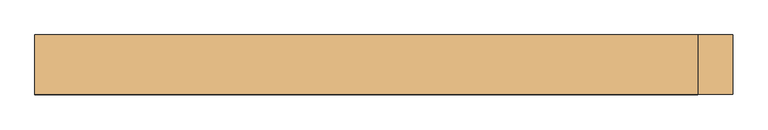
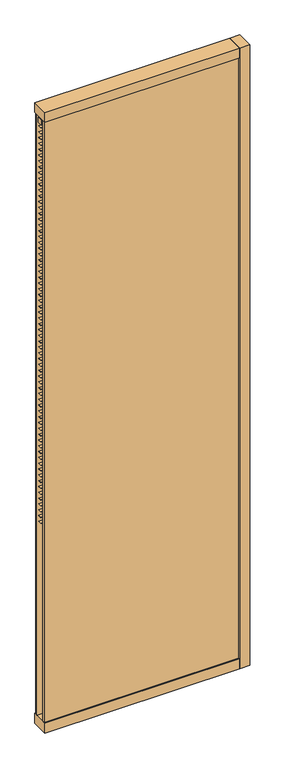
"""IFC4 building model written with IfcOpenShell, lengths in millimetres: door geometry, Mobiliário_Mobiliário de Escritório_Painel Persiana Junta Seca - DWVS e DWVD (Inicial e Final)_Marelli : DWVD."""

from ifc_helpers import new_model, si_unit, frame, origin, origin_with_axes, place, context, project, spatial, polyline, outline, extrude, source, transform, mapped, element, save


def door_7680dacf(model_context):
    return source(origin(), model_context, "Body", "SweptSolid", [
        extrude(outline(polyline([(450.0, 42.5), (450.0, -42.5), (-500.0, -42.5), (-500.0, 42.5), (450.0, 42.5)])), origin_with_axes(), (0.0, 0.0, 1.0), 50.0),
        extrude(outline(polyline([(450.0, 13.6216022), (450.0, -11.3783978), (-500.0, -11.3783978), (-500.0, 13.6216022), (450.0, 13.6216022)])), frame((0.0, 0.0, 3117.0), z_axis=(0.0, 0.0, 1.0), x_axis=(1.0, 0.0, 0.0)), (0.0, 0.0, 1.0), 25.0),
        extrude(outline(polyline([(450.0, 42.5), (450.0, -42.5), (-500.0, -42.5), (-500.0, 42.5), (450.0, 42.5)])), frame((0.0, 0.0, 3150.0), z_axis=(0.0, 0.0, 1.0), x_axis=(1.0, 0.0, 0.0)), (0.0, 0.0, 1.0), 50.0),
        extrude(outline(polyline([(500.0, -42.5), (450.0, -42.5), (450.0, 42.5), (500.0, 42.5), (500.0, -42.5)])), origin_with_axes(), (0.0, 0.0, 1.0), 3200.0),
        extrude(outline(polyline([(450.0, 35.1), (450.0, 25.1), (-500.0, 25.1), (-500.0, 35.1), (450.0, 35.1)])), frame((0.0, 0.0, 50.0), z_axis=(0.0, 0.0, 1.0), x_axis=(1.0, 0.0, 0.0)), (0.0, 0.0, 1.0), 3100.0),
        extrude(outline(polyline([(450.0, -35.1), (-500.0, -35.1), (-500.0, -25.1), (450.0, -25.1), (450.0, -35.1)])), frame((0.0, 0.0, 50.0), z_axis=(0.0, 0.0, 1.0), x_axis=(1.0, 0.0, 0.0)), (0.0, 0.0, 1.0), 3100.0),
        extrude(outline(polyline([(450.0, 8.0), (450.0, -8.0), (-500.0, -8.0), (-500.0, 8.0), (450.0, 8.0)])), frame((0.0, 0.0, 1061.2), z_axis=(0.0, 0.0, 1.0), x_axis=(1.0, 0.0, 0.0)), (0.0, 0.0, 1.0), 0.8),
        extrude(outline(polyline([(450.0, 8.0), (450.0, -8.0), (-500.0, -8.0), (-500.0, 8.0), (450.0, 8.0)])), frame((0.0, 0.0, 1091.2), z_axis=(0.0, 0.0, 1.0), x_axis=(1.0, 0.0, 0.0)), (0.0, 0.0, 1.0), 0.8),
        extrude(outline(polyline([(450.0, 8.0), (450.0, -8.0), (-500.0, -8.0), (-500.0, 8.0), (450.0, 8.0)])), frame((0.0, 0.0, 1121.2), z_axis=(0.0, 0.0, 1.0), x_axis=(1.0, 0.0, 0.0)), (0.0, 0.0, 1.0), 0.8),
        extrude(outline(polyline([(450.0, 8.0), (450.0, -8.0), (-500.0, -8.0), (-500.0, 8.0), (450.0, 8.0)])), frame((0.0, 0.0, 1151.2), z_axis=(0.0, 0.0, 1.0), x_axis=(1.0, 0.0, 0.0)), (0.0, 0.0, 1.0), 0.8),
        extrude(outline(polyline([(450.0, 8.0), (450.0, -8.0), (-500.0, -8.0), (-500.0, 8.0), (450.0, 8.0)])), frame((0.0, 0.0, 1181.2), z_axis=(0.0, 0.0, 1.0), x_axis=(1.0, 0.0, 0.0)), (0.0, 0.0, 1.0), 0.8),
        extrude(outline(polyline([(450.0, 8.0), (450.0, -8.0), (-500.0, -8.0), (-500.0, 8.0), (450.0, 8.0)])), frame((0.0, 0.0, 3101.2), z_axis=(0.0, 0.0, 1.0), x_axis=(1.0, 0.0, 0.0)), (0.0, 0.0, 1.0), 0.8),
        extrude(outline(polyline([(450.0, 8.0), (450.0, -8.0), (-500.0, -8.0), (-500.0, 8.0), (450.0, 8.0)])), frame((0.0, 0.0, 3071.2), z_axis=(0.0, 0.0, 1.0), x_axis=(1.0, 0.0, 0.0)), (0.0, 0.0, 1.0), 0.8),
        extrude(outline(polyline([(450.0, 8.0), (450.0, -8.0), (-500.0, -8.0), (-500.0, 8.0), (450.0, 8.0)])), frame((0.0, 0.0, 3041.2), z_axis=(0.0, 0.0, 1.0), x_axis=(1.0, 0.0, 0.0)), (0.0, 0.0, 1.0), 0.8),
        extrude(outline(polyline([(450.0, 8.0), (450.0, -8.0), (-500.0, -8.0), (-500.0, 8.0), (450.0, 8.0)])), frame((0.0, 0.0, 3011.2), z_axis=(0.0, 0.0, 1.0), x_axis=(1.0, 0.0, 0.0)), (0.0, 0.0, 1.0), 0.8),
        extrude(outline(polyline([(450.0, 8.0), (450.0, -8.0), (-500.0, -8.0), (-500.0, 8.0), (450.0, 8.0)])), frame((0.0, 0.0, 2981.2), z_axis=(0.0, 0.0, 1.0), x_axis=(1.0, 0.0, 0.0)), (0.0, 0.0, 1.0), 0.8),
        extrude(outline(polyline([(450.0, 8.0), (450.0, -8.0), (-500.0, -8.0), (-500.0, 8.0), (450.0, 8.0)])), frame((0.0, 0.0, 2951.2), z_axis=(0.0, 0.0, 1.0), x_axis=(1.0, 0.0, 0.0)), (0.0, 0.0, 1.0), 0.8),
        extrude(outline(polyline([(450.0, 8.0), (450.0, -8.0), (-500.0, -8.0), (-500.0, 8.0), (450.0, 8.0)])), frame((0.0, 0.0, 2921.2), z_axis=(0.0, 0.0, 1.0), x_axis=(1.0, 0.0, 0.0)), (0.0, 0.0, 1.0), 0.8),
        extrude(outline(polyline([(450.0, 8.0), (450.0, -8.0), (-500.0, -8.0), (-500.0, 8.0), (450.0, 8.0)])), frame((0.0, 0.0, 2891.2), z_axis=(0.0, 0.0, 1.0), x_axis=(1.0, 0.0, 0.0)), (0.0, 0.0, 1.0), 0.8),
        extrude(outline(polyline([(450.0, 8.0), (450.0, -8.0), (-500.0, -8.0), (-500.0, 8.0), (450.0, 8.0)])), frame((0.0, 0.0, 2861.2), z_axis=(0.0, 0.0, 1.0), x_axis=(1.0, 0.0, 0.0)), (0.0, 0.0, 1.0), 0.8),
        extrude(outline(polyline([(450.0, 8.0), (450.0, -8.0), (-500.0, -8.0), (-500.0, 8.0), (450.0, 8.0)])), frame((0.0, 0.0, 2831.2), z_axis=(0.0, 0.0, 1.0), x_axis=(1.0, 0.0, 0.0)), (0.0, 0.0, 1.0), 0.8),
        extrude(outline(polyline([(450.0, 8.0), (450.0, -8.0), (-500.0, -8.0), (-500.0, 8.0), (450.0, 8.0)])), frame((0.0, 0.0, 2801.2), z_axis=(0.0, 0.0, 1.0), x_axis=(1.0, 0.0, 0.0)), (0.0, 0.0, 1.0), 0.8),
        extrude(outline(polyline([(450.0, 8.0), (450.0, -8.0), (-500.0, -8.0), (-500.0, 8.0), (450.0, 8.0)])), frame((0.0, 0.0, 2771.2), z_axis=(0.0, 0.0, 1.0), x_axis=(1.0, 0.0, 0.0)), (0.0, 0.0, 1.0), 0.8),
        extrude(outline(polyline([(450.0, 8.0), (450.0, -8.0), (-500.0, -8.0), (-500.0, 8.0), (450.0, 8.0)])), frame((0.0, 0.0, 2741.2), z_axis=(0.0, 0.0, 1.0), x_axis=(1.0, 0.0, 0.0)), (0.0, 0.0, 1.0), 0.8),
        extrude(outline(polyline([(450.0, 8.0), (450.0, -8.0), (-500.0, -8.0), (-500.0, 8.0), (450.0, 8.0)])), frame((0.0, 0.0, 2711.2), z_axis=(0.0, 0.0, 1.0), x_axis=(1.0, 0.0, 0.0)), (0.0, 0.0, 1.0), 0.8),
        extrude(outline(polyline([(450.0, 8.0), (450.0, -8.0), (-500.0, -8.0), (-500.0, 8.0), (450.0, 8.0)])), frame((0.0, 0.0, 2681.2), z_axis=(0.0, 0.0, 1.0), x_axis=(1.0, 0.0, 0.0)), (0.0, 0.0, 1.0), 0.8),
        extrude(outline(polyline([(450.0, 8.0), (450.0, -8.0), (-500.0, -8.0), (-500.0, 8.0), (450.0, 8.0)])), frame((0.0, 0.0, 2651.2), z_axis=(0.0, 0.0, 1.0), x_axis=(1.0, 0.0, 0.0)), (0.0, 0.0, 1.0), 0.8),
        extrude(outline(polyline([(450.0, 8.0), (450.0, -8.0), (-500.0, -8.0), (-500.0, 8.0), (450.0, 8.0)])), frame((0.0, 0.0, 2621.2), z_axis=(0.0, 0.0, 1.0), x_axis=(1.0, 0.0, 0.0)), (0.0, 0.0, 1.0), 0.8),
        extrude(outline(polyline([(450.0, 8.0), (450.0, -8.0), (-500.0, -8.0), (-500.0, 8.0), (450.0, 8.0)])), frame((0.0, 0.0, 2591.2), z_axis=(0.0, 0.0, 1.0), x_axis=(1.0, 0.0, 0.0)), (0.0, 0.0, 1.0), 0.8),
        extrude(outline(polyline([(450.0, 8.0), (450.0, -8.0), (-500.0, -8.0), (-500.0, 8.0), (450.0, 8.0)])), frame((0.0, 0.0, 2561.2), z_axis=(0.0, 0.0, 1.0), x_axis=(1.0, 0.0, 0.0)), (0.0, 0.0, 1.0), 0.8),
        extrude(outline(polyline([(450.0, 8.0), (450.0, -8.0), (-500.0, -8.0), (-500.0, 8.0), (450.0, 8.0)])), frame((0.0, 0.0, 2531.2), z_axis=(0.0, 0.0, 1.0), x_axis=(1.0, 0.0, 0.0)), (0.0, 0.0, 1.0), 0.8),
        extrude(outline(polyline([(450.0, 8.0), (450.0, -8.0), (-500.0, -8.0), (-500.0, 8.0), (450.0, 8.0)])), frame((0.0, 0.0, 2501.2), z_axis=(0.0, 0.0, 1.0), x_axis=(1.0, 0.0, 0.0)), (0.0, 0.0, 1.0), 0.8),
        extrude(outline(polyline([(450.0, 8.0), (450.0, -8.0), (-500.0, -8.0), (-500.0, 8.0), (450.0, 8.0)])), frame((0.0, 0.0, 2471.2), z_axis=(0.0, 0.0, 1.0), x_axis=(1.0, 0.0, 0.0)), (0.0, 0.0, 1.0), 0.8),
        extrude(outline(polyline([(450.0, 8.0), (450.0, -8.0), (-500.0, -8.0), (-500.0, 8.0), (450.0, 8.0)])), frame((0.0, 0.0, 2441.2), z_axis=(0.0, 0.0, 1.0), x_axis=(1.0, 0.0, 0.0)), (0.0, 0.0, 1.0), 0.8),
        extrude(outline(polyline([(450.0, 8.0), (450.0, -8.0), (-500.0, -8.0), (-500.0, 8.0), (450.0, 8.0)])), frame((0.0, 0.0, 2411.2), z_axis=(0.0, 0.0, 1.0), x_axis=(1.0, 0.0, 0.0)), (0.0, 0.0, 1.0), 0.8),
        extrude(outline(polyline([(450.0, 8.0), (450.0, -8.0), (-500.0, -8.0), (-500.0, 8.0), (450.0, 8.0)])), frame((0.0, 0.0, 2381.2), z_axis=(0.0, 0.0, 1.0), x_axis=(1.0, 0.0, 0.0)), (0.0, 0.0, 1.0), 0.8),
        extrude(outline(polyline([(450.0, 8.0), (450.0, -8.0), (-500.0, -8.0), (-500.0, 8.0), (450.0, 8.0)])), frame((0.0, 0.0, 2351.2), z_axis=(0.0, 0.0, 1.0), x_axis=(1.0, 0.0, 0.0)), (0.0, 0.0, 1.0), 0.8),
        extrude(outline(polyline([(450.0, 8.0), (450.0, -8.0), (-500.0, -8.0), (-500.0, 8.0), (450.0, 8.0)])), frame((0.0, 0.0, 2321.2), z_axis=(0.0, 0.0, 1.0), x_axis=(1.0, 0.0, 0.0)), (0.0, 0.0, 1.0), 0.8),
        extrude(outline(polyline([(450.0, 8.0), (450.0, -8.0), (-500.0, -8.0), (-500.0, 8.0), (450.0, 8.0)])), frame((0.0, 0.0, 2291.2), z_axis=(0.0, 0.0, 1.0), x_axis=(1.0, 0.0, 0.0)), (0.0, 0.0, 1.0), 0.8),
        extrude(outline(polyline([(450.0, 8.0), (450.0, -8.0), (-500.0, -8.0), (-500.0, 8.0), (450.0, 8.0)])), frame((0.0, 0.0, 2261.2), z_axis=(0.0, 0.0, 1.0), x_axis=(1.0, 0.0, 0.0)), (0.0, 0.0, 1.0), 0.8),
        extrude(outline(polyline([(450.0, 8.0), (450.0, -8.0), (-500.0, -8.0), (-500.0, 8.0), (450.0, 8.0)])), frame((0.0, 0.0, 2231.2), z_axis=(0.0, 0.0, 1.0), x_axis=(1.0, 0.0, 0.0)), (0.0, 0.0, 1.0), 0.8),
        extrude(outline(polyline([(450.0, 8.0), (450.0, -8.0), (-500.0, -8.0), (-500.0, 8.0), (450.0, 8.0)])), frame((0.0, 0.0, 2201.2), z_axis=(0.0, 0.0, 1.0), x_axis=(1.0, 0.0, 0.0)), (0.0, 0.0, 1.0), 0.8),
        extrude(outline(polyline([(450.0, 8.0), (450.0, -8.0), (-500.0, -8.0), (-500.0, 8.0), (450.0, 8.0)])), frame((0.0, 0.0, 2171.2), z_axis=(0.0, 0.0, 1.0), x_axis=(1.0, 0.0, 0.0)), (0.0, 0.0, 1.0), 0.8),
        extrude(outline(polyline([(450.0, 8.0), (450.0, -8.0), (-500.0, -8.0), (-500.0, 8.0), (450.0, 8.0)])), frame((0.0, 0.0, 2141.2), z_axis=(0.0, 0.0, 1.0), x_axis=(1.0, 0.0, 0.0)), (0.0, 0.0, 1.0), 0.8),
        extrude(outline(polyline([(450.0, 8.0), (450.0, -8.0), (-500.0, -8.0), (-500.0, 8.0), (450.0, 8.0)])), frame((0.0, 0.0, 2111.2), z_axis=(0.0, 0.0, 1.0), x_axis=(1.0, 0.0, 0.0)), (0.0, 0.0, 1.0), 0.8),
        extrude(outline(polyline([(450.0, 8.0), (450.0, -8.0), (-500.0, -8.0), (-500.0, 8.0), (450.0, 8.0)])), frame((0.0, 0.0, 2081.2), z_axis=(0.0, 0.0, 1.0), x_axis=(1.0, 0.0, 0.0)), (0.0, 0.0, 1.0), 0.8),
        extrude(outline(polyline([(450.0, 8.0), (450.0, -8.0), (-500.0, -8.0), (-500.0, 8.0), (450.0, 8.0)])), frame((0.0, 0.0, 2051.2), z_axis=(0.0, 0.0, 1.0), x_axis=(1.0, 0.0, 0.0)), (0.0, 0.0, 1.0), 0.8),
        extrude(outline(polyline([(450.0, 8.0), (450.0, -8.0), (-500.0, -8.0), (-500.0, 8.0), (450.0, 8.0)])), frame((0.0, 0.0, 2021.2), z_axis=(0.0, 0.0, 1.0), x_axis=(1.0, 0.0, 0.0)), (0.0, 0.0, 1.0), 0.8),
        extrude(outline(polyline([(450.0, 8.0), (450.0, -8.0), (-500.0, -8.0), (-500.0, 8.0), (450.0, 8.0)])), frame((0.0, 0.0, 1991.2), z_axis=(0.0, 0.0, 1.0), x_axis=(1.0, 0.0, 0.0)), (0.0, 0.0, 1.0), 0.8),
        extrude(outline(polyline([(450.0, 8.0), (450.0, -8.0), (-500.0, -8.0), (-500.0, 8.0), (450.0, 8.0)])), frame((0.0, 0.0, 1961.2), z_axis=(0.0, 0.0, 1.0), x_axis=(1.0, 0.0, 0.0)), (0.0, 0.0, 1.0), 0.8),
        extrude(outline(polyline([(450.0, 8.0), (450.0, -8.0), (-500.0, -8.0), (-500.0, 8.0), (450.0, 8.0)])), frame((0.0, 0.0, 1931.2), z_axis=(0.0, 0.0, 1.0), x_axis=(1.0, 0.0, 0.0)), (0.0, 0.0, 1.0), 0.8),
        extrude(outline(polyline([(450.0, 8.0), (450.0, -8.0), (-500.0, -8.0), (-500.0, 8.0), (450.0, 8.0)])), frame((0.0, 0.0, 1901.2), z_axis=(0.0, 0.0, 1.0), x_axis=(1.0, 0.0, 0.0)), (0.0, 0.0, 1.0), 0.8),
        extrude(outline(polyline([(450.0, 8.0), (450.0, -8.0), (-500.0, -8.0), (-500.0, 8.0), (450.0, 8.0)])), frame((0.0, 0.0, 1871.2), z_axis=(0.0, 0.0, 1.0), x_axis=(1.0, 0.0, 0.0)), (0.0, 0.0, 1.0), 0.8),
        extrude(outline(polyline([(450.0, 8.0), (450.0, -8.0), (-500.0, -8.0), (-500.0, 8.0), (450.0, 8.0)])), frame((0.0, 0.0, 1841.2), z_axis=(0.0, 0.0, 1.0), x_axis=(1.0, 0.0, 0.0)), (0.0, 0.0, 1.0), 0.8),
        extrude(outline(polyline([(450.0, 8.0), (450.0, -8.0), (-500.0, -8.0), (-500.0, 8.0), (450.0, 8.0)])), frame((0.0, 0.0, 1811.2), z_axis=(0.0, 0.0, 1.0), x_axis=(1.0, 0.0, 0.0)), (0.0, 0.0, 1.0), 0.8),
        extrude(outline(polyline([(450.0, 8.0), (450.0, -8.0), (-500.0, -8.0), (-500.0, 8.0), (450.0, 8.0)])), frame((0.0, 0.0, 1511.2), z_axis=(0.0, 0.0, 1.0), x_axis=(1.0, 0.0, 0.0)), (0.0, 0.0, 1.0), 0.8),
        extrude(outline(polyline([(450.0, 8.0), (450.0, -8.0), (-500.0, -8.0), (-500.0, 8.0), (450.0, 8.0)])), frame((0.0, 0.0, 1541.2), z_axis=(0.0, 0.0, 1.0), x_axis=(1.0, 0.0, 0.0)), (0.0, 0.0, 1.0), 0.8),
        extrude(outline(polyline([(450.0, 8.0), (450.0, -8.0), (-500.0, -8.0), (-500.0, 8.0), (450.0, 8.0)])), frame((0.0, 0.0, 1571.2), z_axis=(0.0, 0.0, 1.0), x_axis=(1.0, 0.0, 0.0)), (0.0, 0.0, 1.0), 0.8),
        extrude(outline(polyline([(450.0, 8.0), (450.0, -8.0), (-500.0, -8.0), (-500.0, 8.0), (450.0, 8.0)])), frame((0.0, 0.0, 1601.2), z_axis=(0.0, 0.0, 1.0), x_axis=(1.0, 0.0, 0.0)), (0.0, 0.0, 1.0), 0.8),
        extrude(outline(polyline([(450.0, 8.0), (450.0, -8.0), (-500.0, -8.0), (-500.0, 8.0), (450.0, 8.0)])), frame((0.0, 0.0, 1631.2), z_axis=(0.0, 0.0, 1.0), x_axis=(1.0, 0.0, 0.0)), (0.0, 0.0, 1.0), 0.8),
        extrude(outline(polyline([(450.0, 8.0), (450.0, -8.0), (-500.0, -8.0), (-500.0, 8.0), (450.0, 8.0)])), frame((0.0, 0.0, 1661.2), z_axis=(0.0, 0.0, 1.0), x_axis=(1.0, 0.0, 0.0)), (0.0, 0.0, 1.0), 0.8),
        extrude(outline(polyline([(450.0, 8.0), (450.0, -8.0), (-500.0, -8.0), (-500.0, 8.0), (450.0, 8.0)])), frame((0.0, 0.0, 1691.2), z_axis=(0.0, 0.0, 1.0), x_axis=(1.0, 0.0, 0.0)), (0.0, 0.0, 1.0), 0.8),
        extrude(outline(polyline([(450.0, 8.0), (450.0, -8.0), (-500.0, -8.0), (-500.0, 8.0), (450.0, 8.0)])), frame((0.0, 0.0, 1721.2), z_axis=(0.0, 0.0, 1.0), x_axis=(1.0, 0.0, 0.0)), (0.0, 0.0, 1.0), 0.8),
        extrude(outline(polyline([(450.0, 8.0), (450.0, -8.0), (-500.0, -8.0), (-500.0, 8.0), (450.0, 8.0)])), frame((0.0, 0.0, 1751.2), z_axis=(0.0, 0.0, 1.0), x_axis=(1.0, 0.0, 0.0)), (0.0, 0.0, 1.0), 0.8),
        extrude(outline(polyline([(450.0, 8.0), (450.0, -8.0), (-500.0, -8.0), (-500.0, 8.0), (450.0, 8.0)])), frame((0.0, 0.0, 1781.2), z_axis=(0.0, 0.0, 1.0), x_axis=(1.0, 0.0, 0.0)), (0.0, 0.0, 1.0), 0.8),
        extrude(outline(polyline([(450.0, 8.0), (450.0, -8.0), (-500.0, -8.0), (-500.0, 8.0), (450.0, 8.0)])), frame((0.0, 0.0, 1211.2), z_axis=(0.0, 0.0, 1.0), x_axis=(1.0, 0.0, 0.0)), (0.0, 0.0, 1.0), 0.8),
        extrude(outline(polyline([(450.0, 8.0), (450.0, -8.0), (-500.0, -8.0), (-500.0, 8.0), (450.0, 8.0)])), frame((0.0, 0.0, 1481.2), z_axis=(0.0, 0.0, 1.0), x_axis=(1.0, 0.0, 0.0)), (0.0, 0.0, 1.0), 0.8),
        extrude(outline(polyline([(450.0, 8.0), (450.0, -8.0), (-500.0, -8.0), (-500.0, 8.0), (450.0, 8.0)])), frame((0.0, 0.0, 1451.2), z_axis=(0.0, 0.0, 1.0), x_axis=(1.0, 0.0, 0.0)), (0.0, 0.0, 1.0), 0.8),
        extrude(outline(polyline([(450.0, 8.0), (450.0, -8.0), (-500.0, -8.0), (-500.0, 8.0), (450.0, 8.0)])), frame((0.0, 0.0, 1421.2), z_axis=(0.0, 0.0, 1.0), x_axis=(1.0, 0.0, 0.0)), (0.0, 0.0, 1.0), 0.8),
        extrude(outline(polyline([(450.0, 8.0), (450.0, -8.0), (-500.0, -8.0), (-500.0, 8.0), (450.0, 8.0)])), frame((0.0, 0.0, 1391.2), z_axis=(0.0, 0.0, 1.0), x_axis=(1.0, 0.0, 0.0)), (0.0, 0.0, 1.0), 0.8),
        extrude(outline(polyline([(450.0, 8.0), (450.0, -8.0), (-500.0, -8.0), (-500.0, 8.0), (450.0, 8.0)])), frame((0.0, 0.0, 1361.2), z_axis=(0.0, 0.0, 1.0), x_axis=(1.0, 0.0, 0.0)), (0.0, 0.0, 1.0), 0.8),
        extrude(outline(polyline([(450.0, 8.0), (450.0, -8.0), (-500.0, -8.0), (-500.0, 8.0), (450.0, 8.0)])), frame((0.0, 0.0, 1331.2), z_axis=(0.0, 0.0, 1.0), x_axis=(1.0, 0.0, 0.0)), (0.0, 0.0, 1.0), 0.8),
        extrude(outline(polyline([(450.0, 8.0), (450.0, -8.0), (-500.0, -8.0), (-500.0, 8.0), (450.0, 8.0)])), frame((0.0, 0.0, 1301.2), z_axis=(0.0, 0.0, 1.0), x_axis=(1.0, 0.0, 0.0)), (0.0, 0.0, 1.0), 0.8),
        extrude(outline(polyline([(450.0, 8.0), (450.0, -8.0), (-500.0, -8.0), (-500.0, 8.0), (450.0, 8.0)])), frame((0.0, 0.0, 1271.2), z_axis=(0.0, 0.0, 1.0), x_axis=(1.0, 0.0, 0.0)), (0.0, 0.0, 1.0), 0.8),
        extrude(outline(polyline([(450.0, 8.0), (450.0, -8.0), (-500.0, -8.0), (-500.0, 8.0), (450.0, 8.0)])), frame((0.0, 0.0, 1241.2), z_axis=(0.0, 0.0, 1.0), x_axis=(1.0, 0.0, 0.0)), (0.0, 0.0, 1.0), 0.8),
    ])


if __name__ == "__main__":
    model = new_model("IFC4")
    model_context = context("Model", 3, world=origin())
    ifc_project = project(units=[si_unit("LENGTHUNIT", "METRE", prefix="MILLI")], contexts=[model_context])
    site = spatial("IfcSite", under=ifc_project)
    building = spatial("IfcBuilding", under=site)
    placement = place(None, origin())
    door_shape = door_7680dacf(model_context)
    element("IfcDoor", 1, ObjectType="Mobiliário_Mobiliário de Escritório_Painel Persiana Junta Seca - DWVS e DWVD (Inicial e Final)_Marelli : DWVD", at=placement, inside=building, context=model_context, shape_type="MappedRepresentation", body=[
        mapped(door_shape, transform((0.0, 0.0, 0.0), x_axis=(1.0, 0.0, 0.0), y_axis=(0.0, 1.0, 0.0), z_axis=(0.0, 0.0, 1.0))),
    ])
    save(model, "model.ifc")
